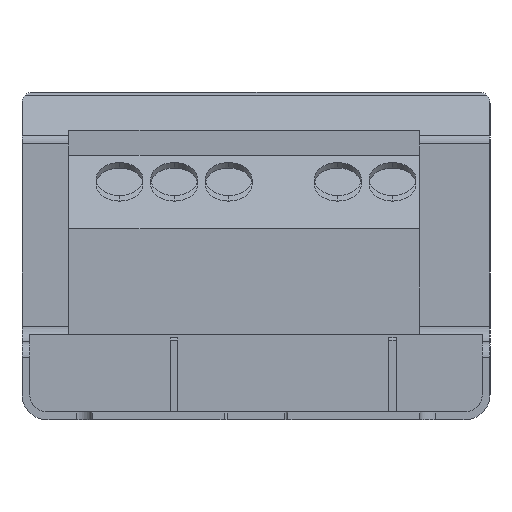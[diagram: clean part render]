
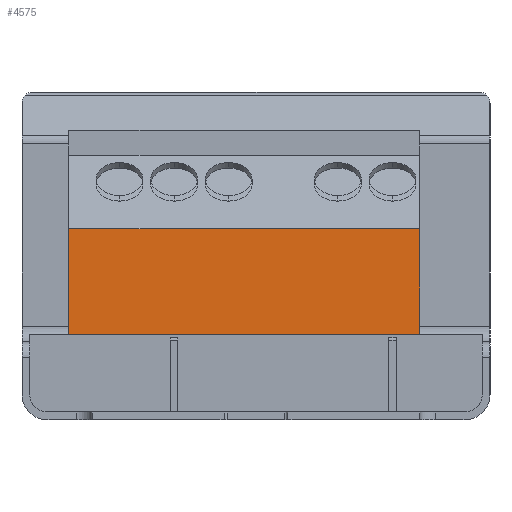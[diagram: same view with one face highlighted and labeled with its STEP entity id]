
A CAD part, left-side view. The second image highlights one B-rep face of the part: STEP entity #4575.
In plain terms, the highlighted planar face has unit normal (-1, 0, 0).
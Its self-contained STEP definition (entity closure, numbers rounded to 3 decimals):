
#1055=DIRECTION('',(0.,1.,0.));
#1056=VECTOR('',#1055,22.5);
#1057=CARTESIAN_POINT('',(9.7,-10.5,5.485));
#1058=LINE('',#1057,#1056);
#1071=DIRECTION('',(0.,0.,-1.));
#1072=VECTOR('',#1071,6.765);
#1073=CARTESIAN_POINT('',(9.7,-10.5,12.25));
#1074=LINE('',#1073,#1072);
#1107=DIRECTION('',(0.,0.,1.));
#1108=VECTOR('',#1107,6.765);
#1109=CARTESIAN_POINT('',(9.7,12.,5.485));
#1110=LINE('',#1109,#1108);
#1171=DIRECTION('',(0.,1.,0.));
#1172=VECTOR('',#1171,22.5);
#1173=CARTESIAN_POINT('',(9.7,-10.5,12.25));
#1174=LINE('',#1173,#1172);
#2995=CARTESIAN_POINT('',(9.7,-10.5,12.25));
#2997=VERTEX_POINT('',#2995);
#3010=CARTESIAN_POINT('',(9.7,12.,12.25));
#3012=VERTEX_POINT('',#3010);
#3026=CARTESIAN_POINT('',(9.7,12.,5.485));
#3027=VERTEX_POINT('',#3026);
#3030=CARTESIAN_POINT('',(9.7,-10.5,5.485));
#3031=VERTEX_POINT('',#3030);
#4562=CARTESIAN_POINT('',(9.7,-10.5,5.45));
#4563=DIRECTION('',(-1.,0.,0.));
#4564=DIRECTION('',(0.,0.,1.));
#4565=AXIS2_PLACEMENT_3D('',#4562,#4563,#4564);
#4566=PLANE('',#4565);
#4568=ORIENTED_EDGE('',*,*,#4567,.T.);
#4570=ORIENTED_EDGE('',*,*,#4569,.F.);
#4571=ORIENTED_EDGE('',*,*,#4540,.T.);
#4572=ORIENTED_EDGE('',*,*,#4530,.T.);
#4573=EDGE_LOOP('',(#4568,#4570,#4571,#4572));
#4574=FACE_OUTER_BOUND('',#4573,.F.);
#4575=ADVANCED_FACE('',(#4574),#4566,.T.);
#4530=EDGE_CURVE('',#3031,#3027,#1058,.T.);
#4540=EDGE_CURVE('',#2997,#3031,#1074,.T.);
#4567=EDGE_CURVE('',#3027,#3012,#1110,.T.);
#4569=EDGE_CURVE('',#2997,#3012,#1174,.T.);
